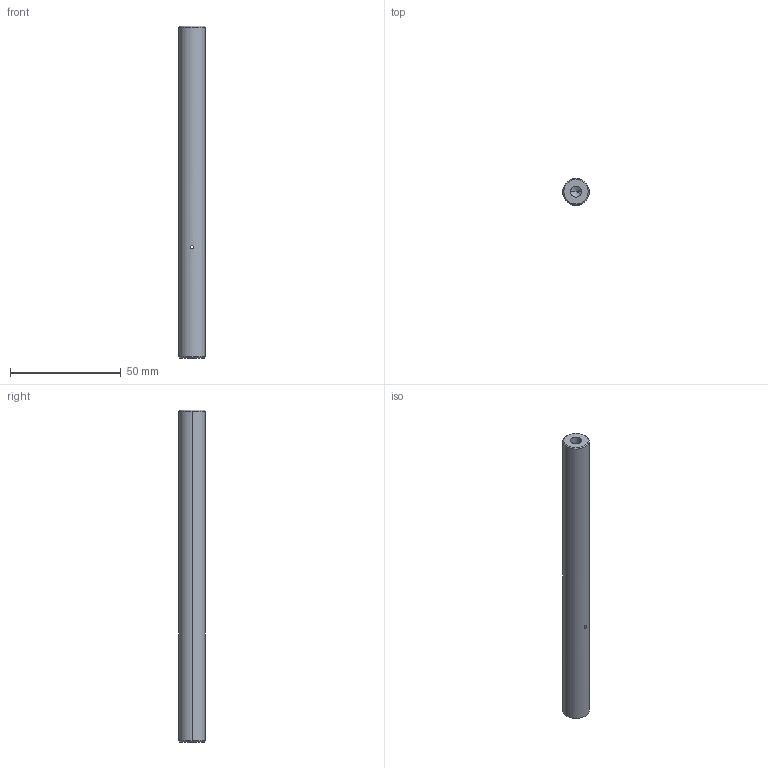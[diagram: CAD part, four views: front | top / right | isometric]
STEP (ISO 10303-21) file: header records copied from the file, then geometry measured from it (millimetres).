
FILE_DESCRIPTION (( 'STEP AP203' ), '1' );
FILE_NAME ('PHSP12-5B.step', '2019-05-09T09:08:13', ( '' ), ( '' ), 'SwSTEP 2.0', 'SolidWorks 2016', '' );
FILE_SCHEMA (( 'CONFIG_CONTROL_DESIGN' ));
Length unit declared in the file: millimetre
Products named in the file (1): PHSP12-5B
Bounding box: 12 x 12 x 150 mm (x, y, z)
Volume: 16540.7 mm3; surface area: 6256.1 mm2
Topology: 1 solids, 1 shells, 18 faces, 40 edges, 22 vertices
Faces by surface type: cylinder 8, cone 8, plane 2
Entity records: 597 total; most frequent: CARTESIAN_POINT 133, DIRECTION 86, ORIENTED_EDGE 72, EDGE_CURVE 36, AXIS2_PLACEMENT_3D 35, EDGE_LOOP 22, VERTEX_POINT 22, FACE_OUTER_BOUND 18
